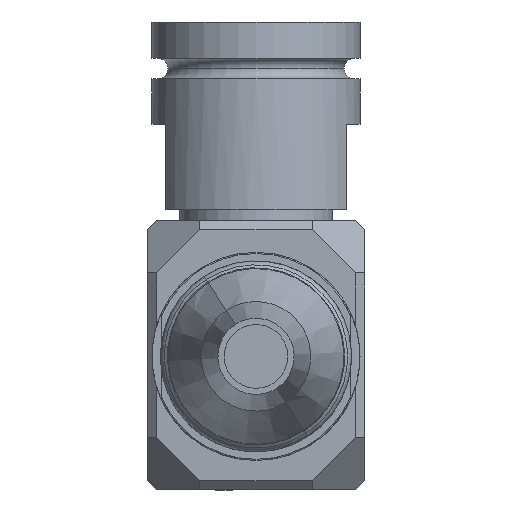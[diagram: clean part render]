
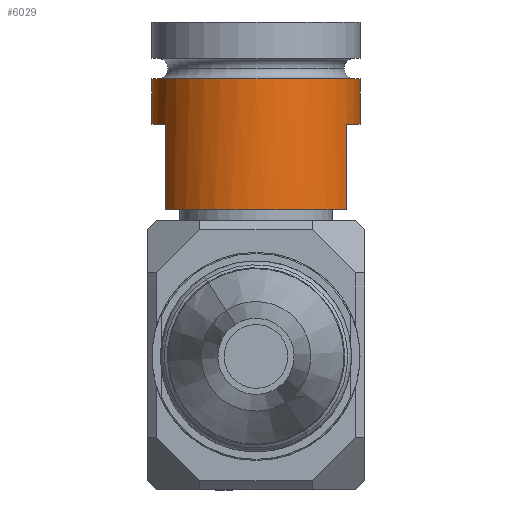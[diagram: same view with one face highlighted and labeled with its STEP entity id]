
A CAD part, front view. The second image highlights one B-rep face of the part: STEP entity #6029.
In plain terms, the highlighted cylindrical face has radius 11.62 mm (diameter 23.241 mm), a partial arc.
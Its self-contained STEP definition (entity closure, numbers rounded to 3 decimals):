
#82 = DIRECTION ( 'NONE',  ( 0., 0., -1. ) ) ;
#198 = CARTESIAN_POINT ( 'NONE',  ( 11.621, 0., 2.108 ) ) ;
#283 = VERTEX_POINT ( 'NONE', #696 ) ;
#664 = CARTESIAN_POINT ( 'NONE',  ( 11.621, 0., -2.972 ) ) ;
#696 = CARTESIAN_POINT ( 'NONE',  ( -10.16, -5.64, -2.972 ) ) ;
#952 = CARTESIAN_POINT ( 'NONE',  ( -10.16, -5.64, -12.497 ) ) ;
#980 = CIRCLE ( 'NONE', #3775, 11.621 ) ;
#1007 = CARTESIAN_POINT ( 'NONE',  ( 11.621, 0., 8.458 ) ) ;
#1014 = VECTOR ( 'NONE', #3116, 1000. ) ;
#1052 = CARTESIAN_POINT ( 'NONE',  ( -11.621, 0., 2.108 ) ) ;
#1072 = VERTEX_POINT ( 'NONE', #8728 ) ;
#1122 = DIRECTION ( 'NONE',  ( 0., 0., -1. ) ) ;
#1167 = EDGE_CURVE ( 'NONE', #4678, #5424, #1781, .T. ) ;
#1709 = ORIENTED_EDGE ( 'NONE', *, *, #1167, .F. ) ;
#1781 = LINE ( 'NONE', #1007, #1014 ) ;
#1808 = EDGE_CURVE ( 'NONE', #283, #8201, #4940, .T. ) ;
#1832 = ORIENTED_EDGE ( 'NONE', *, *, #4982, .F. ) ;
#2320 = EDGE_CURVE ( 'NONE', #5424, #7357, #980, .T. ) ;
#2513 = EDGE_CURVE ( 'NONE', #4678, #7746, #6110, .T. ) ;
#2624 = EDGE_LOOP ( 'NONE', ( #7717, #6218, #1832, #5521, #4406, #5710, #8698, #1709 ) ) ;
#2886 = DIRECTION ( 'NONE',  ( -1., 0., 0. ) ) ;
#3060 = CARTESIAN_POINT ( 'NONE',  ( 10.16, -5.64, -12.497 ) ) ;
#3083 = CARTESIAN_POINT ( 'NONE',  ( 0., 0., 2.108 ) ) ;
#3116 = DIRECTION ( 'NONE',  ( 0., 0., -1. ) ) ;
#3267 = LINE ( 'NONE', #8884, #6731 ) ;
#3599 = CARTESIAN_POINT ( 'NONE',  ( -10.16, -5.64, -2.972 ) ) ;
#3775 = AXIS2_PLACEMENT_3D ( 'NONE', #8238, #4843, #8196 ) ;
#3805 = EDGE_CURVE ( 'NONE', #7746, #1072, #3267, .T. ) ;
#3911 = DIRECTION ( 'NONE',  ( 1., 0., 0. ) ) ;
#4036 = VERTEX_POINT ( 'NONE', #3060 ) ;
#4321 = VECTOR ( 'NONE', #5619, 1000. ) ;
#4366 = AXIS2_PLACEMENT_3D ( 'NONE', #3083, #8694, #3911 ) ;
#4406 = ORIENTED_EDGE ( 'NONE', *, *, #5958, .F. ) ;
#4526 = CARTESIAN_POINT ( 'NONE',  ( 0., 0., 8.458 ) ) ;
#4572 = DIRECTION ( 'NONE',  ( 1., 0., 0. ) ) ;
#4678 = VERTEX_POINT ( 'NONE', #198 ) ;
#4843 = DIRECTION ( 'NONE',  ( 0., 0., -1. ) ) ;
#4940 = LINE ( 'NONE', #3599, #4321 ) ;
#4946 = CIRCLE ( 'NONE', #8903, 11.621 ) ;
#4982 = EDGE_CURVE ( 'NONE', #283, #1072, #9040, .T. ) ;
#5182 = CARTESIAN_POINT ( 'NONE',  ( 10.16, -5.64, -2.972 ) ) ;
#5397 = CYLINDRICAL_SURFACE ( 'NONE', #7277, 11.621 ) ;
#5424 = VERTEX_POINT ( 'NONE', #664 ) ;
#5521 = ORIENTED_EDGE ( 'NONE', *, *, #1808, .T. ) ;
#5619 = DIRECTION ( 'NONE',  ( 0., 0., -1. ) ) ;
#5710 = ORIENTED_EDGE ( 'NONE', *, *, #8579, .F. ) ;
#5958 = EDGE_CURVE ( 'NONE', #4036, #8201, #4946, .T. ) ;
#6029 = ADVANCED_FACE ( 'NONE', ( #8021 ), #5397, .T. ) ;
#6110 = CIRCLE ( 'NONE', #4366, 11.621 ) ;
#6218 = ORIENTED_EDGE ( 'NONE', *, *, #3805, .T. ) ;
#6599 = DIRECTION ( 'NONE',  ( 1., 0., 0. ) ) ;
#6731 = VECTOR ( 'NONE', #8192, 1000. ) ;
#7121 = AXIS2_PLACEMENT_3D ( 'NONE', #7858, #82, #2886 ) ;
#7277 = AXIS2_PLACEMENT_3D ( 'NONE', #4526, #1122, #4572 ) ;
#7283 = DIRECTION ( 'NONE',  ( 0., 0., -1. ) ) ;
#7347 = CARTESIAN_POINT ( 'NONE',  ( 10.16, -5.64, -2.972 ) ) ;
#7357 = VERTEX_POINT ( 'NONE', #7347 ) ;
#7717 = ORIENTED_EDGE ( 'NONE', *, *, #2513, .T. ) ;
#7746 = VERTEX_POINT ( 'NONE', #1052 ) ;
#7858 = CARTESIAN_POINT ( 'NONE',  ( 0., 0., -2.972 ) ) ;
#7891 = LINE ( 'NONE', #5182, #8552 ) ;
#8021 = FACE_OUTER_BOUND ( 'NONE', #2624, .T. ) ;
#8192 = DIRECTION ( 'NONE',  ( 0., 0., -1. ) ) ;
#8196 = DIRECTION ( 'NONE',  ( 1., 0., 0. ) ) ;
#8201 = VERTEX_POINT ( 'NONE', #952 ) ;
#8238 = CARTESIAN_POINT ( 'NONE',  ( 0., 0., -2.972 ) ) ;
#8531 = DIRECTION ( 'NONE',  ( 0., 0., -1. ) ) ;
#8552 = VECTOR ( 'NONE', #8531, 1000. ) ;
#8579 = EDGE_CURVE ( 'NONE', #7357, #4036, #7891, .T. ) ;
#8694 = DIRECTION ( 'NONE',  ( 0., 0., -1. ) ) ;
#8698 = ORIENTED_EDGE ( 'NONE', *, *, #2320, .F. ) ;
#8728 = CARTESIAN_POINT ( 'NONE',  ( -11.621, 0., -2.972 ) ) ;
#8884 = CARTESIAN_POINT ( 'NONE',  ( -11.621, 0., 8.458 ) ) ;
#8894 = CARTESIAN_POINT ( 'NONE',  ( 0., 0., -12.497 ) ) ;
#8903 = AXIS2_PLACEMENT_3D ( 'NONE', #8894, #7283, #6599 ) ;
#9040 = CIRCLE ( 'NONE', #7121, 11.621 ) ;
